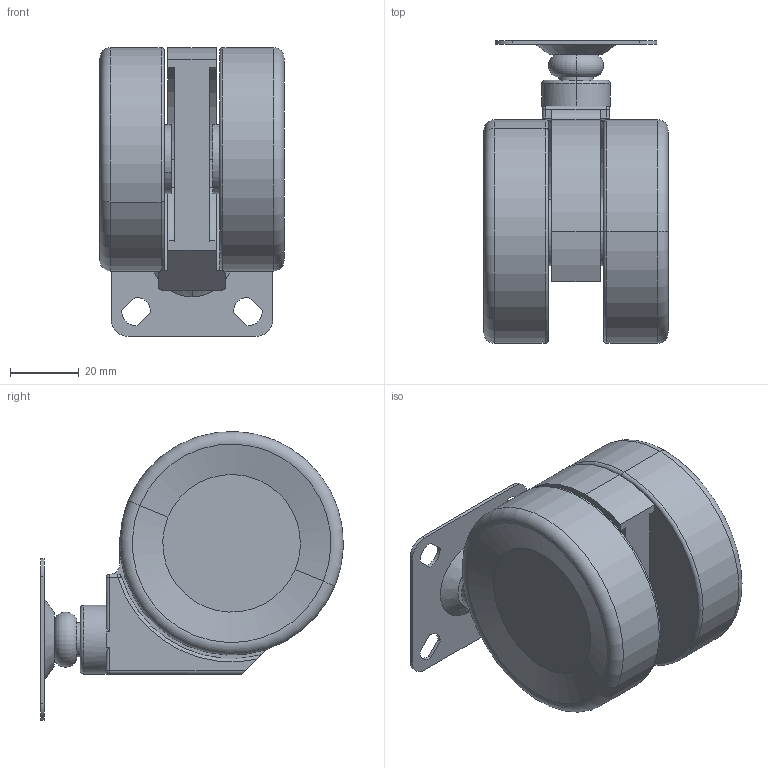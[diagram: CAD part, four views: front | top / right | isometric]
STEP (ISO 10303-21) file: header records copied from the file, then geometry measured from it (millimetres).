
FILE_DESCRIPTION (( 'STEP AP214' ), '1' );
FILE_NAME ('FROG-65-US-P.STEP', '2020-04-17T11:50:12', ( '' ), ( '' ), 'SwSTEP 2.0', 'SolidWorks 2019', '' );
FILE_SCHEMA (( 'AUTOMOTIVE_DESIGN' ));
Length unit declared in the file: millimetre
Products named in the file (4): FROG-65-US-P; FROG-65US_partsB; FROG-65US_wheel; FROG_partsA
Assembly tree (4 placements, depth 2):
  FROG-65-US-P
    FROG-65US_partsB
    FROG-65US_wheel  x2
    FROG_partsA
Bounding box: 53.49 x 88 x 84 mm (x, y, z)
Volume: 160617.7 mm3; surface area: 35988.7 mm2
Topology: 4 solids, 4 shells, 129 faces, 316 edges, 195 vertices
Faces by surface type: cylinder 55, plane 45, torus 15, sphere 6, cone 6, bspline 2
Entity records: 3746 total; most frequent: CARTESIAN_POINT 742, DIRECTION 648, ORIENTED_EDGE 572, EDGE_CURVE 286, AXIS2_PLACEMENT_3D 253, VERTEX_POINT 181, VECTOR 142, LINE 142
